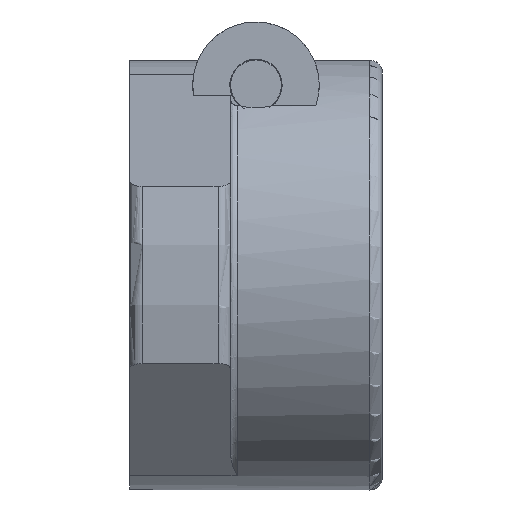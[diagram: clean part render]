
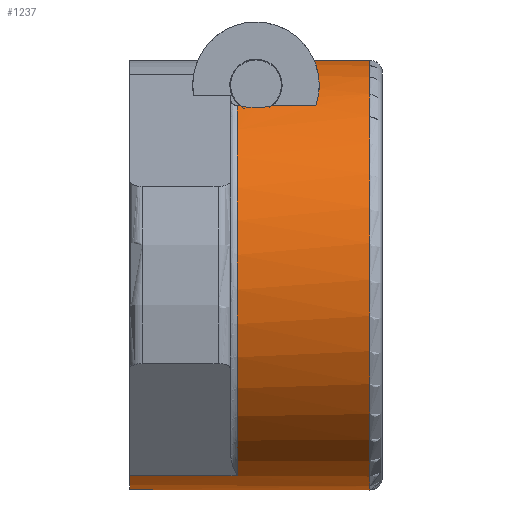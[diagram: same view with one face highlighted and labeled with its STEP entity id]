
A CAD part, front view. The second image highlights one B-rep face of the part: STEP entity #1237.
In plain terms, the highlighted cylindrical face has radius 17 mm (diameter 34 mm), a partial arc.
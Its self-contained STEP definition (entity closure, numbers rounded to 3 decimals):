
#1030=CARTESIAN_POINT('',(8.5,-10.5,13.37));
#1031=VERTEX_POINT('',#1030);
#1063=CARTESIAN_POINT('',(8.5,-6.099,-15.868));
#1064=VERTEX_POINT('',#1063);
#1072=CARTESIAN_POINT('',(8.5,0.0,0.0));
#1073=DIRECTION('',(-1.,0.0,0.0));
#1074=DIRECTION('',(0.0,-0.989,-0.149));
#1075=AXIS2_PLACEMENT_3D('',#1072,#1073,#1074);
#1076=CIRCLE('',#1075,17.0);
#1077=EDGE_CURVE('',#1064,#1031,#1076,.T.);
#1088=CARTESIAN_POINT('',(8.729,-10.5,13.37));
#1089=VERTEX_POINT('',#1088);
#1090=CARTESIAN_POINT('',(8.729,-10.5,13.37));
#1091=DIRECTION('',(-1.0,0.0,0.0));
#1092=VECTOR('',#1091,0.229);
#1093=LINE('',#1090,#1092);
#1094=EDGE_CURVE('',#1089,#1031,#1093,.T.);
#1096=CARTESIAN_POINT('',(11.271,-10.5,13.37));
#1097=VERTEX_POINT('',#1096);
#1105=CARTESIAN_POINT('',(14.727,-10.5,13.37));
#1106=VERTEX_POINT('',#1105);
#1107=CARTESIAN_POINT('',(14.727,-10.5,13.37));
#1108=DIRECTION('',(-1.0,0.0,0.0));
#1109=VECTOR('',#1108,3.456);
#1110=LINE('',#1107,#1109);
#1111=EDGE_CURVE('',#1106,#1097,#1110,.T.);
#1130=CARTESIAN_POINT('',(0.0,0.0,0.0));
#1131=DIRECTION('',(1.0,0.0,0.0));
#1132=DIRECTION('',(0.0,1.0,0.0));
#1133=AXIS2_PLACEMENT_3D('',#1130,#1131,#1132);
#1134=CYLINDRICAL_SURFACE('',#1133,17.0);
#1135=ORIENTED_EDGE('',*,*,#1077,.F.);
#1136=CARTESIAN_POINT('',(0.0,-6.099,-15.868));
#1137=VERTEX_POINT('',#1136);
#1138=CARTESIAN_POINT('',(0.0,-6.099,-15.868));
#1139=DIRECTION('',(1.0,0.0,0.0));
#1140=VECTOR('',#1139,8.5);
#1141=LINE('',#1138,#1140);
#1142=EDGE_CURVE('',#1137,#1064,#1141,.T.);
#1143=ORIENTED_EDGE('',*,*,#1142,.F.);
#1144=CARTESIAN_POINT('',(0.0,6.099,-15.868));
#1145=VERTEX_POINT('',#1144);
#1146=CARTESIAN_POINT('',(0.0,0.0,0.0));
#1147=DIRECTION('',(1.0,0.0,0.0));
#1148=DIRECTION('',(0.0,1.0,0.0));
#1149=AXIS2_PLACEMENT_3D('',#1146,#1147,#1148);
#1150=CIRCLE('',#1149,17.0);
#1151=EDGE_CURVE('',#1137,#1145,#1150,.T.);
#1152=ORIENTED_EDGE('',*,*,#1151,.T.);
#1153=CARTESIAN_POINT('',(8.5,6.099,-15.868));
#1154=VERTEX_POINT('',#1153);
#1155=CARTESIAN_POINT('',(0.0,6.099,-15.868));
#1156=DIRECTION('',(1.0,0.0,0.0));
#1157=VECTOR('',#1156,8.5);
#1158=LINE('',#1155,#1157);
#1159=EDGE_CURVE('',#1145,#1154,#1158,.T.);
#1160=ORIENTED_EDGE('',*,*,#1159,.T.);
#1161=CARTESIAN_POINT('',(8.5,13.577,10.23));
#1162=VERTEX_POINT('',#1161);
#1163=CARTESIAN_POINT('',(8.5,0.0,0.0));
#1164=DIRECTION('',(-1.,0.0,0.0));
#1165=DIRECTION('',(0.0,0.963,-0.269));
#1166=AXIS2_PLACEMENT_3D('',#1163,#1164,#1165);
#1167=CIRCLE('',#1166,17.);
#1168=EDGE_CURVE('',#1162,#1154,#1167,.T.);
#1169=ORIENTED_EDGE('',*,*,#1168,.F.);
#1170=CARTESIAN_POINT('',(10.,13.748,10.));
#1171=VERTEX_POINT('',#1170);
#1172=CARTESIAN_POINT('',(8.5,13.577,10.23));
#1173=CARTESIAN_POINT('',(8.902,13.672,10.104));
#1174=CARTESIAN_POINT('',(9.337,13.728,10.027));
#1175=CARTESIAN_POINT('',(9.75,13.743,10.006));
#1176=CARTESIAN_POINT('',(9.834,13.746,10.002));
#1177=CARTESIAN_POINT('',(9.918,13.748,10.));
#1178=CARTESIAN_POINT('',(10.,13.748,10.));
#1179=B_SPLINE_CURVE_WITH_KNOTS('',3,(#1172,#1173,#1174,#1175,#1176,#1177,#1178),.UNSPECIFIED.,.F.,.U.,(4,3,4),(1.673,1.793,1.818),.UNSPECIFIED.);
#1180=EDGE_CURVE('',#1162,#1171,#1179,.T.);
#1181=ORIENTED_EDGE('',*,*,#1180,.T.);
#1182=CARTESIAN_POINT('',(19.0,13.748,10.));
#1183=VERTEX_POINT('',#1182);
#1184=CARTESIAN_POINT('',(10.,13.748,10.));
#1185=DIRECTION('',(1.0,0.0,0.0));
#1186=VECTOR('',#1185,9.);
#1187=LINE('',#1184,#1186);
#1188=EDGE_CURVE('',#1171,#1183,#1187,.T.);
#1189=ORIENTED_EDGE('',*,*,#1188,.T.);
#1190=CARTESIAN_POINT('',(19.0,-1.,16.971));
#1191=VERTEX_POINT('',#1190);
#1192=CARTESIAN_POINT('',(19.0,0.0,0.0));
#1193=DIRECTION('',(1.,0.0,0.0));
#1194=DIRECTION('',(0.0,-0.427,-0.904));
#1195=AXIS2_PLACEMENT_3D('',#1192,#1193,#1194);
#1196=CIRCLE('',#1195,17.0);
#1197=EDGE_CURVE('',#1191,#1183,#1196,.T.);
#1198=ORIENTED_EDGE('',*,*,#1197,.F.);
#1199=CARTESIAN_POINT('',(14.595,-1.,16.971));
#1200=VERTEX_POINT('',#1199);
#1201=CARTESIAN_POINT('',(19.0,-1.,16.971));
#1202=DIRECTION('',(-1.0,0.,0.));
#1203=VECTOR('',#1202,4.405);
#1204=LINE('',#1201,#1203);
#1205=EDGE_CURVE('',#1191,#1200,#1204,.T.);
#1206=ORIENTED_EDGE('',*,*,#1205,.T.);
#1207=CARTESIAN_POINT('',(14.595,-1.,16.971));
#1208=CARTESIAN_POINT('',(14.623,-2.102,16.906));
#1209=CARTESIAN_POINT('',(14.7,-3.216,16.731));
#1210=CARTESIAN_POINT('',(14.786,-4.301,16.447));
#1211=CARTESIAN_POINT('',(14.887,-5.583,16.112));
#1212=CARTESIAN_POINT('',(14.998,-6.823,15.625));
#1213=CARTESIAN_POINT('',(15.,-7.968,15.017));
#1214=CARTESIAN_POINT('',(15.002,-8.878,14.534));
#1215=CARTESIAN_POINT('',(14.936,-9.729,13.975));
#1216=CARTESIAN_POINT('',(14.727,-10.5,13.37));
#1217=B_SPLINE_CURVE_WITH_KNOTS('',3,(#1207,#1208,#1209,#1210,#1211,#1212,#1213,#1214,#1215,#1216),.UNSPECIFIED.,.F.,.U.,(4,3,3,4),(3.735,4.062,4.448,4.756),.UNSPECIFIED.);
#1218=EDGE_CURVE('',#1200,#1106,#1217,.T.);
#1219=ORIENTED_EDGE('',*,*,#1218,.T.);
#1220=ORIENTED_EDGE('',*,*,#1111,.T.);
#1221=CARTESIAN_POINT('',(11.271,-10.5,13.37));
#1222=CARTESIAN_POINT('',(10.954,-10.585,13.303));
#1223=CARTESIAN_POINT('',(10.614,-10.647,13.253));
#1224=CARTESIAN_POINT('',(10.288,-10.668,13.236));
#1225=CARTESIAN_POINT('',(10.094,-10.681,13.226));
#1226=CARTESIAN_POINT('',(9.912,-10.681,13.226));
#1227=CARTESIAN_POINT('',(9.718,-10.668,13.236));
#1228=CARTESIAN_POINT('',(9.391,-10.647,13.253));
#1229=CARTESIAN_POINT('',(9.048,-10.586,13.302));
#1230=CARTESIAN_POINT('',(8.729,-10.5,13.37));
#1231=B_SPLINE_CURVE_WITH_KNOTS('',3,(#1221,#1222,#1223,#1224,#1225,#1226,#1227,#1228,#1229,#1230),.UNSPECIFIED.,.F.,.U.,(4,3,3,4),(1.931,2.025,2.08,2.175),.UNSPECIFIED.);
#1232=EDGE_CURVE('',#1097,#1089,#1231,.T.);
#1233=ORIENTED_EDGE('',*,*,#1232,.T.);
#1234=ORIENTED_EDGE('',*,*,#1094,.T.);
#1235=EDGE_LOOP('',(#1135,#1143,#1152,#1160,#1169,#1181,#1189,#1198,#1206,#1219,#1220,#1233,#1234));
#1236=FACE_OUTER_BOUND('',#1235,.T.);
#1237=ADVANCED_FACE('',(#1236),#1134,.T.);
